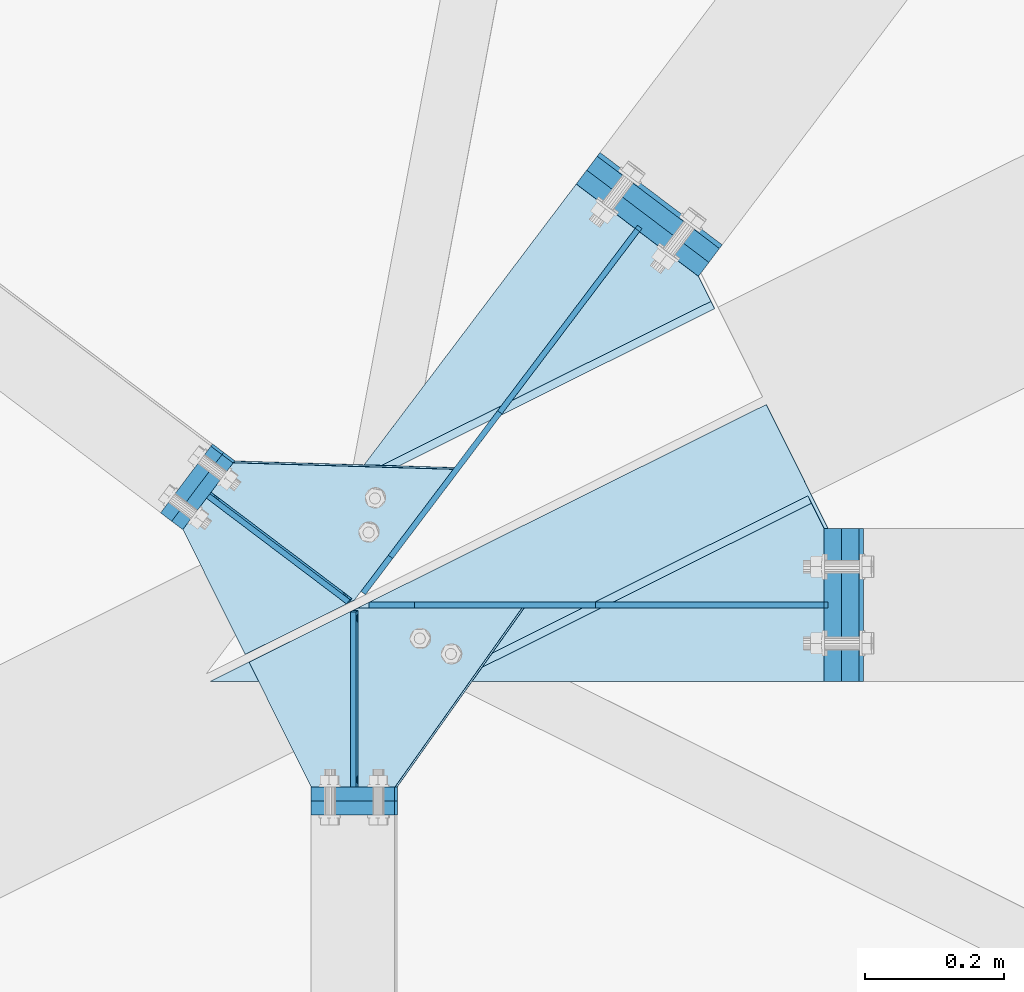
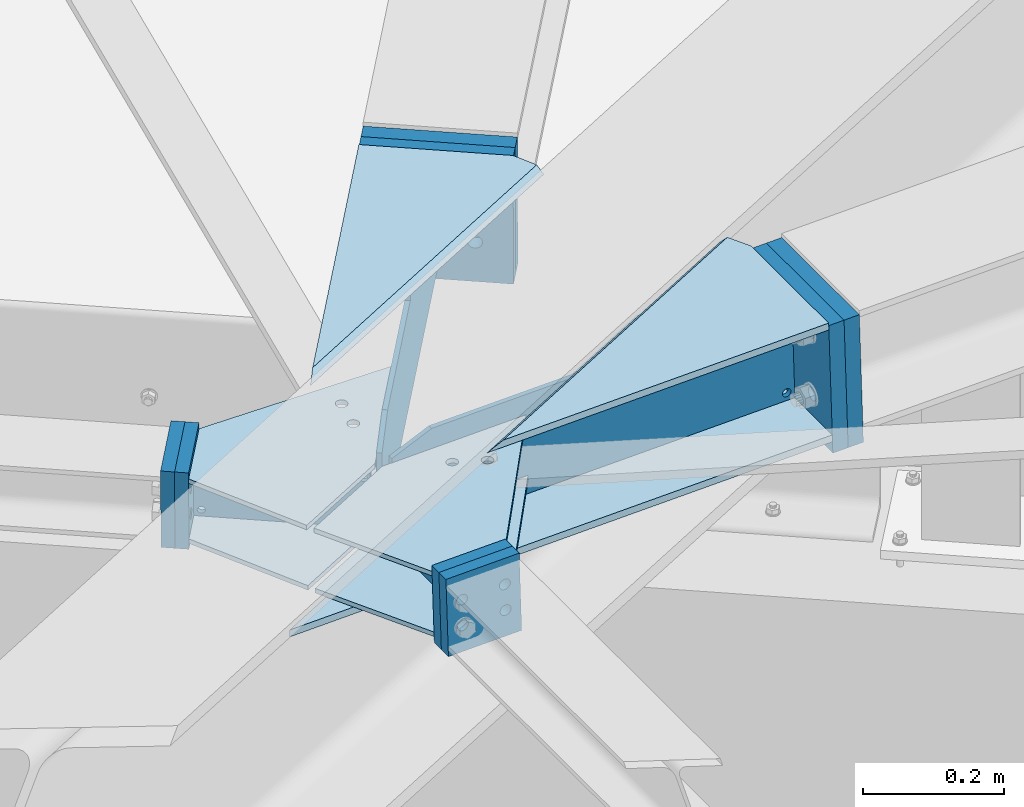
# One storey, part 54 of 476: 19 plates, 56 openings.
"""IFC2X3 building model written with IfcOpenShell, lengths in millimetres."""

from ifc_helpers import new_model, entity, si_unit, converted_unit, frame, frame_2d, origin, origin_with_axes, place, context, project, spatial, polyline, circle, outline, extrude, material, layer, layer_set, element, save


model = new_model("IFC2X3")

# Units and contexts
model_context = context("Model", 3, precision=1e-09, world=origin_with_axes())
ifc_project = project(units=[si_unit("LENGTHUNIT", "METRE", prefix="MILLI"), si_unit("AREAUNIT", "SQUARE_METRE"), si_unit("VOLUMEUNIT", "CUBIC_METRE"), converted_unit("PLANEANGLEUNIT", "DEGREE", entity("IfcPlaneAngleMeasure", 0.01745329), si_unit("PLANEANGLEUNIT", "RADIAN"), dimensions=[0, 0, 0, 0, 0, 0, 0])], contexts=[model_context])

# Site, building, storey
site_placement = place(None, origin_with_axes())
site = spatial("IfcSite", under=ifc_project, at=site_placement, Name="mKR Teilneubau & Sanierung BA1 - Ostfildern", CompositionType="ELEMENT")
building_placement = place(site_placement, origin_with_axes())
building = spatial("IfcBuilding", under=site, at=building_placement, Name="Struktur 1", CompositionType="ELEMENT")
storey_placement = place(building_placement, origin_with_axes())
storey = spatial("IfcBuildingStorey", under=building, at=storey_placement, Name="Default Storey", CompositionType="ELEMENT", Elevation=0.0)

# Plate
ifc_material = material(Name="S235JR")
ifc_layer_1 = layer(ifc_material, 8.0)
ifc_layer_set_1 = layer_set([ifc_layer_1], Name="S235JR")
plate_1_placement = place(None, frame((14893.782128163, -2306.627890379, 5317.425893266), z_axis=(0.018098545, 0.02396011, -0.999549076), x_axis=(0.999406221, -0.029749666, 0.017382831)))
element("IfcPlate", 1, at=plate_1_placement, inside=storey, material=ifc_layer_set_1, Name="-", ObjectType="-", context=model_context, shape_type="SweptSolid", body=[
    extrude(outline(polyline([(0.0, 0.0), (316.101636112, 0.0), (177.815406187, 194.780816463), (25.985073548, 276.089759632), (-69.467908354, 97.847890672), (0.0, 0.0)])), origin_with_axes(), (0.0, 0.0, 1.0), 8.0),
])

# Plate, openings
plate_2_placement = place(None, frame((15123.868848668, -2775.16992536, 5423.378095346), z_axis=(-0.030027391, 0.0, 0.999549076), x_axis=(0.578638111, 0.81539915, 0.017382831)))
plate_2 = element("IfcPlate", 2, at=plate_2_placement, inside=storey, material=ifc_layer_set_1, Name="-", ObjectType="-", context=model_context, shape_type="SweptSolid", body=[
    extrude(outline(polyline([(0.0, 0.0), (316.101636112, 0.0), (179.76446991, 192.035494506), (25.27693589, 274.767435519), (-69.467908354, 97.847890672), (0.0, 0.0)])), origin_with_axes(), (0.0, 0.0, -1.0), 8.0),
])
opening_1_placement = place(plate_2_placement, frame((201.775757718, 53.348423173, 0.500409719), z_axis=(-8.427e-06, 1.187e-05, 1.0), x_axis=(1.0, 0.0, 8.427e-06)))
element("IfcOpeningElement", 3, at=opening_1_placement, cuts=plate_2, ObjectType="Opening", context=model_context, shape_type="SweptSolid", body=[
    extrude(circle(Radius=9.001, at=frame_2d((1.395104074, -8.892226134), x_axis=(1.0, 0.0))), origin(), (0.0, 0.0, -1.0), 9.000651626),
])
opening_2_placement = place(plate_2_placement, frame((194.026040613, 102.744191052, 0.499758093), z_axis=(-8.427e-06, 1.187e-05, 1.0), x_axis=(1.0, 0.0, 8.427e-06)))
element("IfcOpeningElement", 4, at=opening_2_placement, cuts=plate_2, ObjectType="Opening", context=model_context, shape_type="SweptSolid", body=[
    extrude(circle(Radius=9.001, at=frame_2d((1.395104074, -8.892226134), x_axis=(1.0, 0.0))), origin(), (0.0, 0.0, -1.0), 9.000651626),
])

# Plate
plate_3_placement = place(None, frame((15127.051752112, -2775.169925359, 5317.425893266), z_axis=(-0.030027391, 0.0, 0.999549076), x_axis=(0.578638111, 0.81539915, 0.017382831)))
element("IfcPlate", 5, at=plate_3_placement, inside=storey, material=ifc_layer_set_1, Name="-", ObjectType="-", context=model_context, shape_type="SweptSolid", body=[
    extrude(outline(polyline([(0.0, 0.0), (316.101636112, 0.0), (177.815406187, 194.780816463), (25.985073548, 276.089759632), (-69.467908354, 97.847890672), (0.0, 0.0)])), origin_with_axes(), (0.0, 0.0, -1.0), 8.0),
])

# Plate, openings
plate_4_placement = place(None, frame((15061.609249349, -2649.15187572, 5364.48204482), z_axis=(-0.999549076, -1.05e-07, -0.030027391), x_axis=(1.05e-07, -1.0, 0.0)))
plate_4 = element("IfcPlate", 6, at=plate_4_placement, inside=storey, material=ifc_layer_set_1, Name="-", ObjectType="-", context=model_context, shape_type="SweptSolid", body=[
    extrude(outline(polyline([(-127.698069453, -49.000000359), (126.018069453, -49.000000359), (126.018069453, 49.000000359), (-126.018069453, 49.000000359), (-127.698069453, -49.000000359)])), origin_with_axes(), (0.0, 0.0, -1.0), 8.0),
])
opening_3_placement = place(plate_4_placement, frame((-110.839000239, 37.999999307, -8.5), z_axis=(0.0, 0.0, -1.0), x_axis=(-1.0, 0.0, 0.0)))
element("IfcOpeningElement", 7, at=opening_3_placement, cuts=plate_4, ObjectType="Opening", context=model_context, shape_type="SweptSolid", body=[
    extrude(circle(Radius=6.001, at=frame_2d((6.001, -3.8e-08), x_axis=(1.0, 0.0))), origin(), (0.0, 0.0, -1.0), 9.0),
])
opening_4_placement = place(plate_4_placement, frame((121.160999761, 38.000000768, -8.5), z_axis=(0.0, 0.0, -1.0), x_axis=(-1.0, 0.0, 0.0)))
element("IfcOpeningElement", 8, at=opening_4_placement, cuts=plate_4, ObjectType="Opening", context=model_context, shape_type="SweptSolid", body=[
    extrude(circle(Radius=6.001, at=frame_2d((6.001, -3.8e-08), x_axis=(1.0, 0.0))), origin(), (0.0, 0.0, -1.0), 9.0),
])
opening_5_placement = place(plate_4_placement, frame((-110.838999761, -38.000000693, -8.5), z_axis=(0.0, 0.0, -1.0), x_axis=(-1.0, 0.0, 0.0)))
element("IfcOpeningElement", 9, at=opening_5_placement, cuts=plate_4, ObjectType="Opening", context=model_context, shape_type="SweptSolid", body=[
    extrude(circle(Radius=6.001, at=frame_2d((6.001, -3.8e-08), x_axis=(1.0, 0.0))), origin(), (0.0, 0.0, -1.0), 9.0),
])
opening_6_placement = place(plate_4_placement, frame((121.161000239, -37.999999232, -8.5), z_axis=(0.0, 0.0, -1.0), x_axis=(-1.0, 0.0, 0.0)))
element("IfcOpeningElement", 10, at=opening_6_placement, cuts=plate_4, ObjectType="Opening", context=model_context, shape_type="SweptSolid", body=[
    extrude(circle(Radius=6.001, at=frame_2d((6.001, -3.8e-08), x_axis=(1.0, 0.0))), origin(), (0.0, 0.0, -1.0), 9.0),
])

ifc_layer_2 = layer(ifc_material, 20.0)
ifc_layer_set_2 = layer_set([ifc_layer_2], Name="S235JR")
plate_5_placement = place(None, frame((15065.607467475, -2795.169931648, 5364.602154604), z_axis=(-1.05e-07, 1.0, 0.0), x_axis=(-0.030027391, 0.0, 0.999549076)))
plate_5 = element("IfcPlate", 11, at=plate_5_placement, inside=storey, material=ifc_layer_set_2, Name="Endplate#1", ObjectType="Endplate#1", context=model_context, shape_type="SweptSolid", body=[
    extrude(outline(polyline([(-67.5, -60.0), (67.5, -60.0), (67.5, 60.0), (-67.5, 60.0), (-67.5, -60.0)])), origin_with_axes(), (0.0, 0.0, -1.0), 20.0),
])
opening_7_placement = place(plate_5_placement, frame((22.5, 44.001, 0.5), z_axis=(0.0, 0.0, 1.0), x_axis=(1.0, 0.0, 0.0)))
element("IfcOpeningElement", 12, at=opening_7_placement, cuts=plate_5, ObjectType="Opening", context=model_context, shape_type="SweptSolid", body=[
    extrude(circle(Radius=9.001, at=frame_2d((0.0, -9.001), x_axis=(1.0, 0.0))), origin(), (0.0, 0.0, -1.0), 21.0),
])
opening_8_placement = place(plate_5_placement, frame((-22.5, 44.001, 0.5), z_axis=(0.0, 0.0, 1.0), x_axis=(1.0, 0.0, 0.0)))
element("IfcOpeningElement", 13, at=opening_8_placement, cuts=plate_5, ObjectType="Opening", context=model_context, shape_type="SweptSolid", body=[
    extrude(circle(Radius=9.001, at=frame_2d((0.0, -9.001), x_axis=(1.0, 0.0))), origin(), (0.0, 0.0, -1.0), 21.0),
])
opening_9_placement = place(plate_5_placement, frame((22.5, -25.999, 0.5), z_axis=(0.0, 0.0, 1.0), x_axis=(1.0, 0.0, 0.0)))
element("IfcOpeningElement", 14, at=opening_9_placement, cuts=plate_5, ObjectType="Opening", context=model_context, shape_type="SweptSolid", body=[
    extrude(circle(Radius=9.001, at=frame_2d((0.0, -9.001), x_axis=(1.0, 0.0))), origin(), (0.0, 0.0, -1.0), 21.0),
])
opening_10_placement = place(plate_5_placement, frame((-22.5, -25.999, 0.5), z_axis=(0.0, 0.0, 1.0), x_axis=(1.0, 0.0, 0.0)))
element("IfcOpeningElement", 15, at=opening_10_placement, cuts=plate_5, ObjectType="Opening", context=model_context, shape_type="SweptSolid", body=[
    extrude(circle(Radius=9.001, at=frame_2d((0.0, -9.001), x_axis=(1.0, 0.0))), origin(), (0.0, 0.0, -1.0), 21.0),
])

plate_6_placement = place(None, frame((15065.60746538, -2775.169931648, 5364.602154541), z_axis=(-1.05e-07, 1.0, 0.0), x_axis=(-0.030027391, 0.0, 0.999549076)))
plate_6 = element("IfcPlate", 16, at=plate_6_placement, inside=storey, material=ifc_layer_set_2, Name="Endplate#2", ObjectType="Endplate#2", context=model_context, shape_type="SweptSolid", body=[
    extrude(outline(polyline([(-67.5, -60.0), (67.5, -60.0), (67.5, 60.0), (-67.5, 60.0), (-67.5, -60.0)])), origin_with_axes(), (0.0, 0.0, -1.0), 20.0),
])
opening_11_placement = place(plate_6_placement, frame((22.5, -25.999, 0.5), z_axis=(0.0, 0.0, 1.0), x_axis=(1.0, 0.0, 0.0)))
element("IfcOpeningElement", 17, at=opening_11_placement, cuts=plate_6, ObjectType="Opening", context=model_context, shape_type="SweptSolid", body=[
    extrude(circle(Radius=9.001, at=frame_2d((0.0, -9.001), x_axis=(1.0, 0.0))), origin(), (0.0, 0.0, -1.0), 21.0),
])
opening_12_placement = place(plate_6_placement, frame((-22.5, -25.999, 0.5), z_axis=(0.0, 0.0, 1.0), x_axis=(1.0, 0.0, 0.0)))
element("IfcOpeningElement", 18, at=opening_12_placement, cuts=plate_6, ObjectType="Opening", context=model_context, shape_type="SweptSolid", body=[
    extrude(circle(Radius=9.001, at=frame_2d((0.0, -9.001), x_axis=(1.0, 0.0))), origin(), (0.0, 0.0, -1.0), 21.0),
])
opening_13_placement = place(plate_6_placement, frame((22.5, 44.001, 0.5), z_axis=(0.0, 0.0, 1.0), x_axis=(1.0, 0.0, 0.0)))
element("IfcOpeningElement", 19, at=opening_13_placement, cuts=plate_6, ObjectType="Opening", context=model_context, shape_type="SweptSolid", body=[
    extrude(circle(Radius=9.001, at=frame_2d((0.0, -9.001), x_axis=(1.0, 0.0))), origin(), (0.0, 0.0, -1.0), 21.0),
])
opening_14_placement = place(plate_6_placement, frame((-22.5, 44.001, 0.5), z_axis=(0.0, 0.0, 1.0), x_axis=(1.0, 0.0, 0.0)))
element("IfcOpeningElement", 20, at=opening_14_placement, cuts=plate_6, ObjectType="Opening", context=model_context, shape_type="SweptSolid", body=[
    extrude(circle(Radius=9.001, at=frame_2d((0.0, -9.001), x_axis=(1.0, 0.0))), origin(), (0.0, 0.0, -1.0), 21.0),
])

plate_7_placement = place(None, frame((15413.918296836, -2509.420917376, 5385.800575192), z_axis=(0.0, 1.0, 0.0), x_axis=(-0.999548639, 0.0, -0.030041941)))
plate_7 = element("IfcPlate", 21, at=plate_7_placement, inside=storey, material=ifc_layer_set_1, Name="-", ObjectType="-", context=model_context, shape_type="SweptSolid", body=[
    extrude(outline(polyline([(-329.724846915, -91.5), (329.724846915, -91.5), (324.114846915, 91.5), (-329.724846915, 91.5), (-329.724846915, -91.5)])), origin_with_axes(), (0.0, 0.0, -1.0), 8.0),
])
opening_15_placement = place(plate_7_placement, frame((-1.419019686, 81.0, -23.794133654), z_axis=(0.0, -1.0, 0.0), x_axis=(1.0, 0.0, 0.0)))
element("IfcOpeningElement", 22, at=opening_15_placement, cuts=plate_7, ObjectType="Opening", context=model_context, shape_type="SweptSolid", body=[
    extrude(outline(polyline([(0.0, 0.0), (414.484929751, 0.0), (414.484929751, 65.959710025), (0.0, 65.959710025), (0.0, 0.0)])), origin(), (0.0, 0.0, -1.0), 69.0),
])
opening_16_placement = place(plate_7_placement, frame((324.114846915, 91.5, 0.01), z_axis=(0.0, 0.0, 1.0), x_axis=(-1.0, 0.0, 0.0)))
element("IfcOpeningElement", 23, at=opening_16_placement, cuts=plate_7, ObjectType="Opening", context=model_context, shape_type="SweptSolid", body=[
    extrude(outline(polyline([(0.0, 0.0), (90.0, 0.0), (-1.164371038, 37.982156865), (0.0, 0.0)])), origin(), (0.0, 0.0, -1.0), 8.02),
])
opening_17_placement = place(plate_7_placement, frame((329.724846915, -91.5, 0.01), z_axis=(0.0, 0.0, 1.0), x_axis=(-0.030641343, 0.999530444, 0.0)))
element("IfcOpeningElement", 24, at=opening_17_placement, cuts=plate_7, ObjectType="Opening", context=model_context, shape_type="SweptSolid", body=[
    extrude(outline(polyline([(0.0, 0.0), (25.0, 0.0), (1.225653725, 39.981217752), (0.0, 0.0)])), origin(), (0.0, 0.0, -1.0), 8.02),
])
opening_18_placement = place(plate_7_placement, frame((-323.725846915, 78.0, 0.5), z_axis=(0.0, 0.0, 1.0), x_axis=(1.0, 0.0, 0.0)))
element("IfcOpeningElement", 25, at=opening_18_placement, cuts=plate_7, ObjectType="Opening", context=model_context, shape_type="SweptSolid", body=[
    extrude(circle(Radius=7.001, at=frame_2d((7.001, 0.0), x_axis=(1.0, 0.0))), origin(), (0.0, 0.0, -1.0), 9.0),
])
opening_19_placement = place(plate_7_placement, frame((-323.725846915, -78.0, 0.499999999), z_axis=(0.0, 0.0, 1.0), x_axis=(1.0, 0.0, 0.0)))
element("IfcOpeningElement", 26, at=opening_19_placement, cuts=plate_7, ObjectType="Opening", context=model_context, shape_type="SweptSolid", body=[
    extrude(circle(Radius=7.001, at=frame_2d((7.001, 0.0), x_axis=(1.0, 0.0))), origin(), (0.0, 0.0, -1.0), 9.0),
])

# Plate, opening
ifc_layer_3 = layer(ifc_material, 12.0)
ifc_layer_set_3 = layer_set([ifc_layer_3], Name="S235JR")
plate_8_placement = place(None, frame((15740.378466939, -2403.420917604, 5499.409351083), z_axis=(-0.030041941, 0.0, 0.999548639), x_axis=(-0.445320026, 0.895271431, -0.013384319)))
plate_8 = element("IfcPlate", 27, at=plate_8_placement, inside=storey, material=ifc_layer_set_3, Name="-", ObjectType="-", context=model_context, shape_type="SweptSolid", body=[
    extrude(outline(polyline([(0.0, 0.0), (52.260338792, 0.0), (52.260341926, 598.820529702), (-196.959269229, 98.015540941), (0.0, 0.0)])), origin_with_axes(), (0.0, 0.0, -1.0), 12.0),
])
opening_20_placement = place(plate_8_placement, frame((52.260341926, 598.820529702, 0.0), z_axis=(0.0, -1.0, 0.0), x_axis=(-1.0, 0.0, 0.0)))
element("IfcOpeningElement", 28, at=opening_20_placement, cuts=plate_8, ObjectType="Opening", context=model_context, shape_type="SweptSolid", body=[
    extrude(outline(polyline([(0.0, 0.0), (12.0, 0.0), (0.0, 12.0), (0.0, 0.0)])), origin(), (0.0, 0.0, 1.0), 598.841529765),
])

# Plate
plate_9_placement = place(None, frame((15746.251666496, -2403.420917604, 5303.997592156), z_axis=(-0.030041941, 0.0, 0.999548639), x_axis=(-0.445320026, 0.895271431, -0.013384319)))
element("IfcPlate", 29, at=plate_9_placement, inside=storey, material=ifc_layer_set_3, Name="-", ObjectType="-", context=model_context, shape_type="SweptSolid", body=[
    extrude(outline(polyline([(0.0, 0.0), (198.900434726, 0.0), (198.900439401, 893.492734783), (-196.959269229, 98.015540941), (0.0, 0.0)])), origin_with_axes(), (0.0, 0.0, -1.0), 12.0),
])

# Plate, openings
ifc_layer_4 = layer(ifc_material, 25.0)
ifc_layer_set_4 = layer_set([ifc_layer_4], Name="S235JR")
plate_10_placement = place(None, frame((15768.852048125, -2513.420917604, 5384.212757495), z_axis=(-0.999548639, 0.0, -0.030041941), x_axis=(-0.030041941, 0.0, 0.999548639)))
plate_10 = element("IfcPlate", 30, at=plate_10_placement, inside=storey, material=ifc_layer_set_4, Name="Endplate#1", ObjectType="Endplate#1", context=model_context, shape_type="SweptSolid", body=[
    extrude(outline(polyline([(-111.5, -110.0), (111.5, -110.0), (111.5, 110.0), (-111.5, 110.0), (-111.5, -110.0)])), origin_with_axes(), (0.0, 0.0, -1.0), 25.0),
])
opening_21_placement = place(plate_10_placement, frame((68.5, 66.001, 0.5), z_axis=(0.0, 0.0, 1.0), x_axis=(1.0, 0.0, 0.0)))
element("IfcOpeningElement", 31, at=opening_21_placement, cuts=plate_10, ObjectType="Opening", context=model_context, shape_type="SweptSolid", body=[
    extrude(circle(Radius=11.001, at=frame_2d((0.0, -11.001), x_axis=(1.0, 0.0))), origin(), (0.0, 0.0, -1.0), 26.0),
])
opening_22_placement = place(plate_10_placement, frame((-41.5, 66.001, 0.5), z_axis=(0.0, 0.0, 1.0), x_axis=(1.0, 0.0, 0.0)))
element("IfcOpeningElement", 32, at=opening_22_placement, cuts=plate_10, ObjectType="Opening", context=model_context, shape_type="SweptSolid", body=[
    extrude(circle(Radius=11.001, at=frame_2d((0.0, -11.001), x_axis=(1.0, 0.0))), origin(), (0.0, 0.0, -1.0), 26.0),
])
opening_23_placement = place(plate_10_placement, frame((68.5, -43.999, 0.5), z_axis=(0.0, 0.0, 1.0), x_axis=(1.0, 0.0, 0.0)))
element("IfcOpeningElement", 33, at=opening_23_placement, cuts=plate_10, ObjectType="Opening", context=model_context, shape_type="SweptSolid", body=[
    extrude(circle(Radius=11.001, at=frame_2d((0.0, -11.001), x_axis=(1.0, 0.0))), origin(), (0.0, 0.0, -1.0), 26.0),
])
opening_24_placement = place(plate_10_placement, frame((-41.5, -43.999, 0.5), z_axis=(0.0, 0.0, 1.0), x_axis=(1.0, 0.0, 0.0)))
element("IfcOpeningElement", 34, at=opening_24_placement, cuts=plate_10, ObjectType="Opening", context=model_context, shape_type="SweptSolid", body=[
    extrude(circle(Radius=11.001, at=frame_2d((0.0, -11.001), x_axis=(1.0, 0.0))), origin(), (0.0, 0.0, -1.0), 26.0),
])

plate_11_placement = place(None, frame((15743.863332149, -2513.420917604, 5383.461708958), z_axis=(-0.999548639, 0.0, -0.030041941), x_axis=(-0.030041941, 0.0, 0.999548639)))
plate_11 = element("IfcPlate", 35, at=plate_11_placement, inside=storey, material=ifc_layer_set_4, Name="Endplate#2", ObjectType="Endplate#2", context=model_context, shape_type="SweptSolid", body=[
    extrude(outline(polyline([(-111.5, -110.0), (111.5, -110.0), (111.5, 110.0), (-111.5, 110.0), (-111.5, -110.0)])), origin_with_axes(), (0.0, 0.0, -1.0), 25.0),
])
opening_25_placement = place(plate_11_placement, frame((68.5, -43.999, 0.5), z_axis=(0.0, 0.0, 1.0), x_axis=(1.0, 0.0, 0.0)))
element("IfcOpeningElement", 36, at=opening_25_placement, cuts=plate_11, ObjectType="Opening", context=model_context, shape_type="SweptSolid", body=[
    extrude(circle(Radius=11.001, at=frame_2d((0.0, -11.001), x_axis=(1.0, 0.0))), origin(), (0.0, 0.0, -1.0), 26.0),
])
opening_26_placement = place(plate_11_placement, frame((-41.5, -43.999, 0.5), z_axis=(0.0, 0.0, 1.0), x_axis=(1.0, 0.0, 0.0)))
element("IfcOpeningElement", 37, at=opening_26_placement, cuts=plate_11, ObjectType="Opening", context=model_context, shape_type="SweptSolid", body=[
    extrude(circle(Radius=11.001, at=frame_2d((0.0, -11.001), x_axis=(1.0, 0.0))), origin(), (0.0, 0.0, -1.0), 26.0),
])
opening_27_placement = place(plate_11_placement, frame((68.5, 66.001, 0.5), z_axis=(0.0, 0.0, 1.0), x_axis=(1.0, 0.0, 0.0)))
element("IfcOpeningElement", 38, at=opening_27_placement, cuts=plate_11, ObjectType="Opening", context=model_context, shape_type="SweptSolid", body=[
    extrude(circle(Radius=11.001, at=frame_2d((0.0, -11.001), x_axis=(1.0, 0.0))), origin(), (0.0, 0.0, -1.0), 26.0),
])
opening_28_placement = place(plate_11_placement, frame((-41.5, 66.001, 0.5), z_axis=(0.0, 0.0, 1.0), x_axis=(1.0, 0.0, 0.0)))
element("IfcOpeningElement", 39, at=opening_28_placement, cuts=plate_11, ObjectType="Opening", context=model_context, shape_type="SweptSolid", body=[
    extrude(circle(Radius=11.001, at=frame_2d((0.0, -11.001), x_axis=(1.0, 0.0))), origin(), (0.0, 0.0, -1.0), 26.0),
])

plate_12_placement = place(None, frame((15489.477786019, -1952.273764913, 5384.212757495), z_axis=(0.602462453, 0.797581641, 0.030041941), x_axis=(-0.018107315, -0.023971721, 0.999548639)))
plate_12 = element("IfcPlate", 40, at=plate_12_placement, inside=storey, material=ifc_layer_set_4, Name="Endplate#1", ObjectType="Endplate#1", context=model_context, shape_type="SweptSolid", body=[
    extrude(outline(polyline([(-111.5, -110.0), (111.5, -110.0), (111.5, 110.0), (-111.5, 110.0), (-111.5, -110.0)])), origin_with_axes(), (0.0, 0.0, 1.0), 25.0),
])
opening_29_placement = place(plate_12_placement, frame((13.5, 55.0, -0.5), z_axis=(0.0, 0.0, 1.0), x_axis=(0.0, -1.0, 0.0)))
element("IfcOpeningElement", 41, at=opening_29_placement, cuts=plate_12, ObjectType="Opening", context=model_context, shape_type="SweptSolid", body=[
    extrude(circle(Radius=11.001, at=frame_2d((0.0, 55.0), x_axis=(1.0, 0.0))), origin(), (0.0, 0.0, 1.0), 26.0),
])
opening_30_placement = place(plate_12_placement, frame((13.5, 55.0, -0.5), z_axis=(0.0, 0.0, 1.0), x_axis=(0.0, -1.0, 0.0)))
element("IfcOpeningElement", 42, at=opening_30_placement, cuts=plate_12, ObjectType="Opening", context=model_context, shape_type="SweptSolid", body=[
    extrude(circle(Radius=11.001, at=frame_2d((0.0, -55.0), x_axis=(1.0, 0.0))), origin(), (0.0, 0.0, 1.0), 26.0),
])
opening_31_placement = place(plate_12_placement, frame((13.5, -55.0, -0.5), z_axis=(0.0, 0.0, 1.0), x_axis=(0.0, -1.0, 0.0)))
element("IfcOpeningElement", 43, at=opening_31_placement, cuts=plate_12, ObjectType="Opening", context=model_context, shape_type="SweptSolid", body=[
    extrude(circle(Radius=11.001, at=frame_2d((0.0, 55.0), x_axis=(1.0, 0.0))), origin(), (0.0, 0.0, 1.0), 26.0),
])
opening_32_placement = place(plate_12_placement, frame((13.5, -55.0, -0.5), z_axis=(0.0, 0.0, 1.0), x_axis=(0.0, -1.0, 0.0)))
element("IfcOpeningElement", 44, at=opening_32_placement, cuts=plate_12, ObjectType="Opening", context=model_context, shape_type="SweptSolid", body=[
    extrude(circle(Radius=11.001, at=frame_2d((0.0, -55.0), x_axis=(1.0, 0.0))), origin(), (0.0, 0.0, 1.0), 26.0),
])

plate_13_placement = place(None, frame((15474.416224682, -1972.213305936, 5383.461708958), z_axis=(0.602462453, 0.797581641, 0.030041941), x_axis=(-0.018107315, -0.023971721, 0.999548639)))
plate_13 = element("IfcPlate", 45, at=plate_13_placement, inside=storey, material=ifc_layer_set_4, Name="Endplate#2", ObjectType="Endplate#2", context=model_context, shape_type="SweptSolid", body=[
    extrude(outline(polyline([(-111.5, -110.0), (111.5, -110.0), (111.5, 110.0), (-111.5, 110.0), (-111.5, -110.0)])), origin_with_axes(), (0.0, 0.0, 1.0), 25.0),
])
opening_33_placement = place(plate_13_placement, frame((13.5, 55.0, -0.5), z_axis=(0.0, 0.0, 1.0), x_axis=(0.0, -1.0, 0.0)))
element("IfcOpeningElement", 46, at=opening_33_placement, cuts=plate_13, ObjectType="Opening", context=model_context, shape_type="SweptSolid", body=[
    extrude(circle(Radius=11.001, at=frame_2d((0.0, 55.0), x_axis=(1.0, 0.0))), origin(), (0.0, 0.0, 1.0), 26.0),
])
opening_34_placement = place(plate_13_placement, frame((13.5, 55.0, -0.5), z_axis=(0.0, 0.0, 1.0), x_axis=(0.0, -1.0, 0.0)))
element("IfcOpeningElement", 47, at=opening_34_placement, cuts=plate_13, ObjectType="Opening", context=model_context, shape_type="SweptSolid", body=[
    extrude(circle(Radius=11.001, at=frame_2d((0.0, -55.0), x_axis=(1.0, 0.0))), origin(), (0.0, 0.0, 1.0), 26.0),
])
opening_35_placement = place(plate_13_placement, frame((13.5, -55.0, -0.5), z_axis=(0.0, 0.0, 1.0), x_axis=(0.0, -1.0, 0.0)))
element("IfcOpeningElement", 48, at=opening_35_placement, cuts=plate_13, ObjectType="Opening", context=model_context, shape_type="SweptSolid", body=[
    extrude(circle(Radius=11.001, at=frame_2d((0.0, 55.0), x_axis=(1.0, 0.0))), origin(), (0.0, 0.0, 1.0), 26.0),
])
opening_36_placement = place(plate_13_placement, frame((13.5, -55.0, -0.5), z_axis=(0.0, 0.0, 1.0), x_axis=(0.0, -1.0, 0.0)))
element("IfcOpeningElement", 49, at=opening_36_placement, cuts=plate_13, ObjectType="Opening", context=model_context, shape_type="SweptSolid", body=[
    extrude(circle(Radius=11.001, at=frame_2d((0.0, -55.0), x_axis=(1.0, 0.0))), origin(), (0.0, 0.0, 1.0), 26.0),
])

# Plate, opening
plate_14_placement = place(None, frame((15560.089374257, -2041.294821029, 5499.409351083), z_axis=(0.018107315, 0.023971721, -0.999548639), x_axis=(0.445964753, -0.894950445, -0.013384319)))
plate_14 = element("IfcPlate", 50, at=plate_14_placement, inside=storey, material=ifc_layer_set_3, Name="-", ObjectType="-", context=model_context, shape_type="SweptSolid", body=[
    extrude(outline(polyline([(0.0, 0.0), (52.260338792, 0.0), (52.260341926, 598.820529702), (-196.959269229, 98.015540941), (0.0, 0.0)])), origin_with_axes(), (0.0, 0.0, 1.0), 12.0),
])
opening_37_placement = place(plate_14_placement, frame((52.260338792, -0.001000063, 0.0), z_axis=(0.0, 1.0, 0.0), x_axis=(-1.0, 0.0, 0.0)))
element("IfcOpeningElement", 51, at=opening_37_placement, cuts=plate_14, ObjectType="Opening", context=model_context, shape_type="SweptSolid", body=[
    extrude(outline(polyline([(0.0, 0.0), (12.0, 0.0), (0.0, 12.0), (0.0, 0.0)])), origin(), (0.0, 0.0, 1.0), 598.841529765),
])

# Plate, openings
plate_15_placement = place(None, frame((15278.738734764, -2237.901179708, 5385.800575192), z_axis=(-0.797941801, 0.602734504, 0.0), x_axis=(-0.602462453, -0.797581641, -0.030041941)))
plate_15 = element("IfcPlate", 52, at=plate_15_placement, inside=storey, material=ifc_layer_set_1, Name="-", ObjectType="-", context=model_context, shape_type="SweptSolid", body=[
    extrude(outline(polyline([(-329.724846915, -91.5), (329.724846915, -91.5), (324.114846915, 91.5), (-329.724846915, 91.5), (-329.724846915, -91.5)])), origin_with_axes(), (0.0, 0.0, 1.0), 8.0),
])
opening_38_placement = place(plate_15_placement, frame((0.0, 81.0, 4.0), z_axis=(0.0, 1.0, 0.0), x_axis=(1.0, 0.0, 0.0)))
element("IfcOpeningElement", 53, at=opening_38_placement, cuts=plate_15, ObjectType="Opening", context=model_context, shape_type="SweptSolid", body=[
    extrude(outline(polyline([(-1.419019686, -19.794133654), (413.065910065, -19.794133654), (413.065910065, 46.16557637), (-1.419019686, 46.16557637), (-1.419019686, -19.794133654)])), origin(), (0.0, 0.0, 1.0), 69.0),
])
opening_39_placement = place(plate_15_placement, frame((-61.828654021, 0.0, -0.01), z_axis=(0.0, 0.0, 1.0), x_axis=(1.0, 0.0, 0.0)))
element("IfcOpeningElement", 54, at=opening_39_placement, cuts=plate_15, ObjectType="Opening", context=model_context, shape_type="SweptSolid", body=[
    extrude(outline(polyline([(385.943500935, 91.5), (295.943500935, 91.5), (387.107871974, 53.517843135), (385.943500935, 91.5)])), origin(), (0.0, 0.0, 1.0), 8.02),
])
opening_40_placement = place(plate_15_placement, frame((-61.828654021, 0.0, -0.01), z_axis=(0.0, 0.0, 1.0), x_axis=(1.0, 0.0, 0.0)))
element("IfcOpeningElement", 55, at=opening_40_placement, cuts=plate_15, ObjectType="Opening", context=model_context, shape_type="SweptSolid", body=[
    extrude(outline(polyline([(391.553500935, -91.5), (390.787467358, -66.511738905), (351.553500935, -91.5), (391.553500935, -91.5)])), origin(), (0.0, 0.0, 1.0), 8.02),
])
opening_41_placement = place(plate_15_placement, frame((-10.813848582, -2.715166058, -0.5), z_axis=(0.0, 0.0, 1.0), x_axis=(1.0, 0.0, 0.0)))
element("IfcOpeningElement", 56, at=opening_41_placement, cuts=plate_15, ObjectType="Opening", context=model_context, shape_type="SweptSolid", body=[
    extrude(circle(Radius=7.001, at=frame_2d((-305.910998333, 80.715166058), x_axis=(1.0, 0.0))), origin(), (0.0, 0.0, 1.0), 9.0),
])
opening_42_placement = place(plate_15_placement, frame((-10.813848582, -2.715166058, -0.5), z_axis=(0.0, 0.0, 1.0), x_axis=(1.0, 0.0, 0.0)))
element("IfcOpeningElement", 57, at=opening_42_placement, cuts=plate_15, ObjectType="Opening", context=model_context, shape_type="SweptSolid", body=[
    extrude(circle(Radius=7.001, at=frame_2d((-305.910998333, -75.284833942), x_axis=(1.0, 0.0))), origin(), (0.0, 0.0, 1.0), 9.0),
])

plate_16_placement = place(None, frame((14840.788696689, -2343.60215963, 5364.602154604), z_axis=(-0.797941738, 0.602734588, 0.0), x_axis=(-0.018098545, -0.02396011, 0.999549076)))
plate_16 = element("IfcPlate", 58, at=plate_16_placement, inside=storey, material=ifc_layer_set_2, Name="Endplate#1", ObjectType="Endplate#1", context=model_context, shape_type="SweptSolid", body=[
    extrude(outline(polyline([(-67.5, -60.0), (67.5, -60.0), (67.5, 60.0), (-67.5, 60.0), (-67.5, -60.0)])), origin_with_axes(), (0.0, 0.0, 1.0), 20.0),
])
opening_43_placement = place(plate_16_placement, frame((0.0, -35.0, -0.5), z_axis=(0.0, 0.0, 1.0), x_axis=(0.0, -1.0, 0.0)))
element("IfcOpeningElement", 59, at=opening_43_placement, cuts=plate_16, ObjectType="Opening", context=model_context, shape_type="SweptSolid", body=[
    extrude(circle(Radius=9.001, at=frame_2d((0.0, 22.5), x_axis=(1.0, 0.0))), origin(), (0.0, 0.0, 1.0), 21.0),
])
opening_44_placement = place(plate_16_placement, frame((0.0, -35.0, -0.5), z_axis=(0.0, 0.0, 1.0), x_axis=(0.0, -1.0, 0.0)))
element("IfcOpeningElement", 60, at=opening_44_placement, cuts=plate_16, ObjectType="Opening", context=model_context, shape_type="SweptSolid", body=[
    extrude(circle(Radius=9.001, at=frame_2d((0.0, -22.5), x_axis=(1.0, 0.0))), origin(), (0.0, 0.0, 1.0), 21.0),
])
opening_45_placement = place(plate_16_placement, frame((0.0, 35.0, -0.5), z_axis=(0.0, 0.0, 1.0), x_axis=(0.0, -1.0, 0.0)))
element("IfcOpeningElement", 61, at=opening_45_placement, cuts=plate_16, ObjectType="Opening", context=model_context, shape_type="SweptSolid", body=[
    extrude(circle(Radius=9.001, at=frame_2d((0.0, 22.5), x_axis=(1.0, 0.0))), origin(), (0.0, 0.0, 1.0), 21.0),
])
opening_46_placement = place(plate_16_placement, frame((0.0, 35.0, -0.5), z_axis=(0.0, 0.0, 1.0), x_axis=(0.0, -1.0, 0.0)))
element("IfcOpeningElement", 62, at=opening_46_placement, cuts=plate_16, ObjectType="Opening", context=model_context, shape_type="SweptSolid", body=[
    extrude(circle(Radius=9.001, at=frame_2d((0.0, -22.5), x_axis=(1.0, 0.0))), origin(), (0.0, 0.0, 1.0), 21.0),
])

plate_17_placement = place(None, frame((14856.747531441, -2355.656851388, 5364.602154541), z_axis=(-0.797941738, 0.602734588, 0.0), x_axis=(-0.018098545, -0.02396011, 0.999549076)))
plate_17 = element("IfcPlate", 63, at=plate_17_placement, inside=storey, material=ifc_layer_set_2, Name="Endplate#2", ObjectType="Endplate#2", context=model_context, shape_type="SweptSolid", body=[
    extrude(outline(polyline([(-67.5, -60.0), (67.5, -60.0), (67.5, 60.0), (-67.5, 60.0), (-67.5, -60.0)])), origin_with_axes(), (0.0, 0.0, 1.0), 20.0),
])
opening_47_placement = place(plate_17_placement, frame((0.0, 35.0, -0.5), z_axis=(0.0, 0.0, 1.0), x_axis=(0.0, -1.0, 0.0)))
element("IfcOpeningElement", 64, at=opening_47_placement, cuts=plate_17, ObjectType="Opening", context=model_context, shape_type="SweptSolid", body=[
    extrude(circle(Radius=9.001, at=frame_2d((0.0, 22.5), x_axis=(1.0, 0.0))), origin(), (0.0, 0.0, 1.0), 21.0),
])
opening_48_placement = place(plate_17_placement, frame((0.0, 35.0, -0.5), z_axis=(0.0, 0.0, 1.0), x_axis=(0.0, -1.0, 0.0)))
element("IfcOpeningElement", 65, at=opening_48_placement, cuts=plate_17, ObjectType="Opening", context=model_context, shape_type="SweptSolid", body=[
    extrude(circle(Radius=9.001, at=frame_2d((0.0, -22.5), x_axis=(1.0, 0.0))), origin(), (0.0, 0.0, 1.0), 21.0),
])
opening_49_placement = place(plate_17_placement, frame((0.0, -35.0, -0.5), z_axis=(0.0, 0.0, 1.0), x_axis=(0.0, -1.0, 0.0)))
element("IfcOpeningElement", 66, at=opening_49_placement, cuts=plate_17, ObjectType="Opening", context=model_context, shape_type="SweptSolid", body=[
    extrude(circle(Radius=9.001, at=frame_2d((0.0, 22.5), x_axis=(1.0, 0.0))), origin(), (0.0, 0.0, 1.0), 21.0),
])
opening_50_placement = place(plate_17_placement, frame((0.0, -35.0, -0.5), z_axis=(0.0, 0.0, 1.0), x_axis=(0.0, -1.0, 0.0)))
element("IfcOpeningElement", 67, at=opening_50_placement, cuts=plate_17, ObjectType="Opening", context=model_context, shape_type="SweptSolid", body=[
    extrude(circle(Radius=9.001, at=frame_2d((0.0, -22.5), x_axis=(1.0, 0.0))), origin(), (0.0, 0.0, 1.0), 21.0),
])

plate_18_placement = place(None, frame((14891.863682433, -2309.167662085, 5423.378095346), z_axis=(0.018098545, 0.02396011, -0.999549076), x_axis=(0.999406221, -0.029749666, 0.017382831)))
plate_18 = element("IfcPlate", 68, at=plate_18_placement, inside=storey, material=ifc_layer_set_1, Name="-", ObjectType="-", context=model_context, shape_type="SweptSolid", body=[
    extrude(outline(polyline([(0.0, 0.0), (316.101636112, 0.0), (179.76446991, 192.035494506), (25.27693589, 274.767435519), (-69.467908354, 97.847890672), (0.0, 0.0)])), origin_with_axes(), (0.0, 0.0, 1.0), 8.0),
])
opening_51_placement = place(plate_18_placement, frame((204.039007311, 53.348421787, -0.500430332), z_axis=(-2.02e-06, 1.2875e-05, -1.0), x_axis=(-1.0, 0.0, 2.02e-06)))
element("IfcOpeningElement", 69, at=opening_51_placement, cuts=plate_18, ObjectType="Opening", context=model_context, shape_type="SweptSolid", body=[
    extrude(circle(Radius=9.001, at=frame_2d((-1.395106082, -8.892225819), x_axis=(1.0, 0.0))), origin(), (0.0, 0.0, -1.0), 9.000651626),
])
opening_52_placement = place(plate_18_placement, frame((196.28927905, 102.744187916, -0.499778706), z_axis=(-2.02e-06, 1.2875e-05, -1.0), x_axis=(-1.0, 0.0, 2.02e-06)))
element("IfcOpeningElement", 70, at=opening_52_placement, cuts=plate_18, ObjectType="Opening", context=model_context, shape_type="SweptSolid", body=[
    extrude(circle(Radius=9.001, at=frame_2d((-1.395106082, -8.892225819), x_axis=(1.0, 0.0))), origin(), (0.0, 0.0, -1.0), 9.000651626),
])

plate_19_placement = place(None, frame((14954.892743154, -2434.802625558, 5364.48204482), z_axis=(0.602462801, 0.797581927, 0.030027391), x_axis=(-0.797941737, 0.602734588, 0.0)))
plate_19 = element("IfcPlate", 71, at=plate_19_placement, inside=storey, material=ifc_layer_set_1, Name="-", ObjectType="-", context=model_context, shape_type="SweptSolid", body=[
    extrude(outline(polyline([(-127.698069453, -49.000000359), (126.018069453, -49.000000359), (126.018069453, 49.000000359), (-126.018069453, 49.000000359), (-127.698069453, -49.000000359)])), origin_with_axes(), (0.0, 0.0, 1.0), 8.0),
])
opening_53_placement = place(plate_19_placement, frame((-0.84, 0.0, 8.5), z_axis=(0.0, 0.0, -1.0), x_axis=(-1.0, 0.0, 0.0)))
element("IfcOpeningElement", 72, at=opening_53_placement, cuts=plate_19, ObjectType="Opening", context=model_context, shape_type="SweptSolid", body=[
    extrude(circle(Radius=6.001, at=frame_2d((116.0, 38.0), x_axis=(1.0, 0.0))), origin(), (0.0, 0.0, 1.0), 9.0),
])
opening_54_placement = place(plate_19_placement, frame((-0.84, 0.0, 8.5), z_axis=(0.0, 0.0, -1.0), x_axis=(-1.0, 0.0, 0.0)))
element("IfcOpeningElement", 73, at=opening_54_placement, cuts=plate_19, ObjectType="Opening", context=model_context, shape_type="SweptSolid", body=[
    extrude(circle(Radius=6.001, at=frame_2d((-116.0, 38.0), x_axis=(1.0, 0.0))), origin(), (0.0, 0.0, 1.0), 9.0),
])
opening_55_placement = place(plate_19_placement, frame((-0.84, 0.0, 8.5), z_axis=(0.0, 0.0, -1.0), x_axis=(-1.0, 0.0, 0.0)))
element("IfcOpeningElement", 74, at=opening_55_placement, cuts=plate_19, ObjectType="Opening", context=model_context, shape_type="SweptSolid", body=[
    extrude(circle(Radius=6.001, at=frame_2d((116.0, -38.0), x_axis=(1.0, 0.0))), origin(), (0.0, 0.0, 1.0), 9.0),
])
opening_56_placement = place(plate_19_placement, frame((-0.84, 0.0, 8.5), z_axis=(0.0, 0.0, -1.0), x_axis=(-1.0, 0.0, 0.0)))
element("IfcOpeningElement", 75, at=opening_56_placement, cuts=plate_19, ObjectType="Opening", context=model_context, shape_type="SweptSolid", body=[
    extrude(circle(Radius=6.001, at=frame_2d((-116.0, -38.0), x_axis=(1.0, 0.0))), origin(), (0.0, 0.0, 1.0), 9.0),
])

save(model, "model.ifc")
